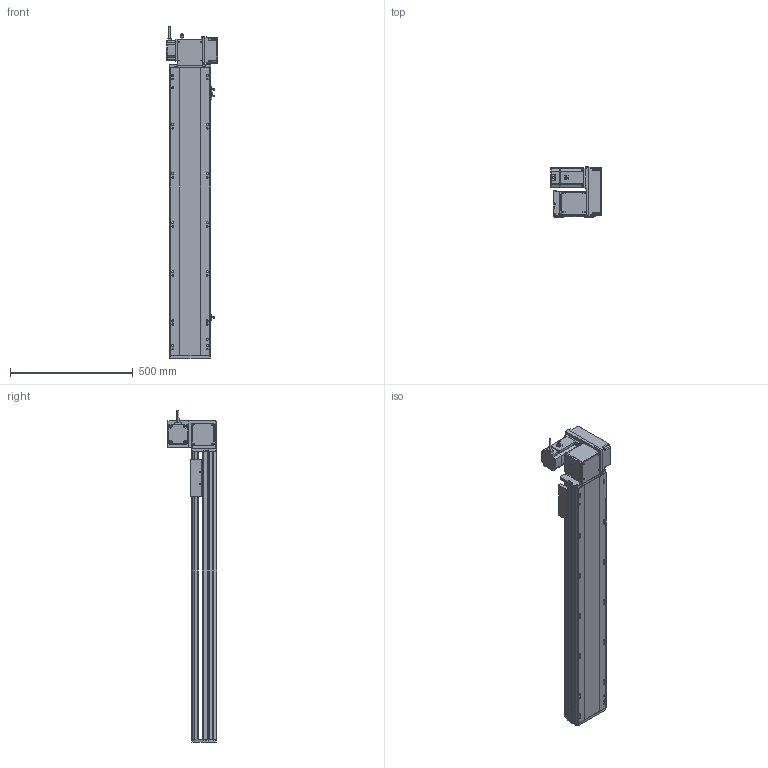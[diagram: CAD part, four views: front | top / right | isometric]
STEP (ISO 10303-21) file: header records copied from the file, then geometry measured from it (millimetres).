
FILE_DESCRIPTION (( 'STEP AP214' ), '1' );
FILE_NAME ('RTB17S-XX-900-RW-M75-C4.STEP', '2025-12-12T02:35:27', ( '' ), ( '' ), 'SwSTEP 2.0', 'SolidWorks 2018', '' );
FILE_SCHEMA (( 'AUTOMOTIVE_DESIGN' ));
Length unit declared in the file: millimetre
Products named in the file (15): RTB17S-RW-々湍釱蚾饜-750W^RTB17S-XX-XX-RW-M75-C4; RTH13-BL-012覜茼え俋离^RTB17S-賑釱_RTB17S-XX-XX-RW-M75-C4; RTB17S-L-007奻裔^RTB17S-XX-XX-RW-M75-C4; RTB17S-賑釱^RTB17S-XX-XX-RW-M75-C4; RTB22S-GY-008-M75--萇儂啣^RTB17S-RW-々湍釱蚾饜-750W_RTB17S-XX-XX-RW-M75-C4; RMP17S-L-014-T20-P75--々湍釱^RTB17S-RW-々湍釱蚾饜-750W_RTB17S-XX-XX-RW-M75-C4; EE672^RTB17S-XX-XX-RW-M75-C4; RTB17S-L-001-耜醱啣^RTB17S-XX-XX-RW-M75-C4; RTB17S-XX-900-RW-M75-C4; 750W萇儂^RTB17S-XX-XX-RW-M75-C4; RTB17-R-011菁釱^RTB17S-XX-XX-RW-M75-C4; RTB17S-L-004-賑釱^RTB17S-賑釱_RTB17S-XX-XX-RW-M75-C4; RTB22S-GY-017P^RTB17S-RW-々湍釱蚾饜-750W_RTB17S-XX-XX-RW-M75-C4; RTB22S-GY-018P^RTB17S-RW-々湍釱蚾饜-750W_RTB17S-XX-XX-RW-M75-C4; RTB22S-GY-005P^RTB17S-RW-々湍釱蚾饜-750W_RTB17S-XX-XX-RW-M75-C4
Assembly tree (17 placements, depth 3):
  RTB17S-XX-900-RW-M75-C4
    RTB17-R-011菁釱^RTB17S-XX-XX-RW-M75-C4
    EE672^RTB17S-XX-XX-RW-M75-C4  x3
    RTB17S-L-001-耜醱啣^RTB17S-XX-XX-RW-M75-C4
    RTB17S-賑釱^RTB17S-XX-XX-RW-M75-C4
      RTB17S-L-004-賑釱^RTB17S-賑釱_RTB17S-XX-XX-RW-M75-C4
      RTH13-BL-012覜茼え俋离^RTB17S-賑釱_RTB17S-XX-XX-RW-M75-C4
    RTB17S-L-007奻裔^RTB17S-XX-XX-RW-M75-C4
    750W萇儂^RTB17S-XX-XX-RW-M75-C4
    RTB17S-RW-々湍釱蚾饜-750W^RTB17S-XX-XX-RW-M75-C4
      RMP17S-L-014-T20-P75--々湍釱^RTB17S-RW-々湍釱蚾饜-750W_RTB17S-XX-XX-RW-M75-C4
      RTB22S-GY-005P^RTB17S-RW-々湍釱蚾饜-750W_RTB17S-XX-XX-RW-M75-C4
      RTB22S-GY-017P^RTB17S-RW-々湍釱蚾饜-750W_RTB17S-XX-XX-RW-M75-C4  x2
      RTB22S-GY-008-M75--萇儂啣^RTB17S-RW-々湍釱蚾饜-750W_RTB17S-XX-XX-RW-M75-C4
      RTB22S-GY-018P^RTB17S-RW-々湍釱蚾饜-750W_RTB17S-XX-XX-RW-M75-C4
Bounding box: 207.4 x 201.5 x 1352.2 mm (x, y, z)
Volume: 11573402.1 mm3; surface area: 1948985.5 mm2
Topology: 17 solids, 17 shells, 2089 faces, 5782 edges, 3734 vertices
Faces by surface type: plane 970, cylinder 703, bspline 294, cone 110, sphere 8, torus 4
Entity records: 58102 total; most frequent: CARTESIAN_POINT 17046, ORIENTED_EDGE 8408, DIRECTION 7862, EDGE_CURVE 4204, AXIS2_PLACEMENT_3D 2754, VERTEX_POINT 2738, LINE 2354, VECTOR 2354
